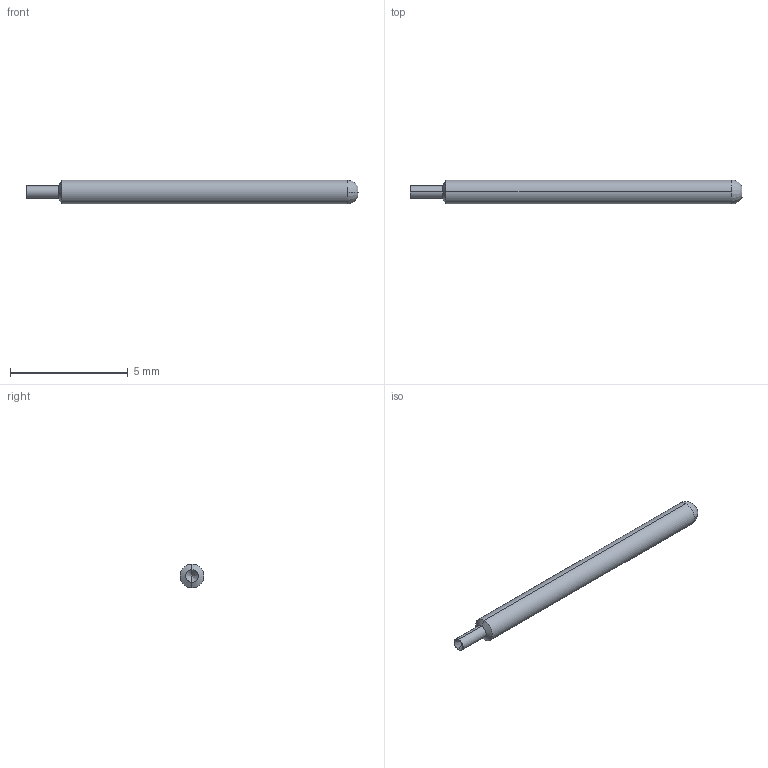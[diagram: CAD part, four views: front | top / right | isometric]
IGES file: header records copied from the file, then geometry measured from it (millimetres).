
Start section: SolidWorks IGES file using analytic representation for surfaces
Global section: file name: Z:\probe solid model mockups\Solidworks models\IGES Files\HPA-1\HPA-1G Full.IGS; native system: SolidWorks 2006 by SolidWorks Corporation; preprocessor: SolidWorks 2006 by SolidWorks Corporation; author: tsakatani; date: 071220.112323; units: inch
Bounding box: 14.1 x 1.02 x 1.02 mm (x, y, z)
Surface area: 43.6 mm2 (no closed solid volume)
Topology: 0 solids, 0 shells, 11 faces, 60 edges, 58 vertices
Faces by surface type: revolution 10, bspline 1
